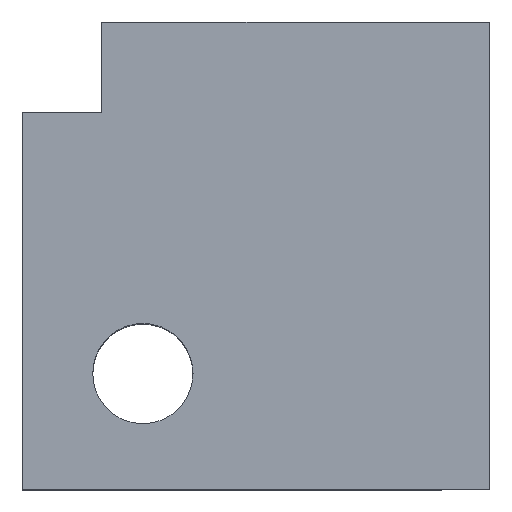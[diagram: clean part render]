
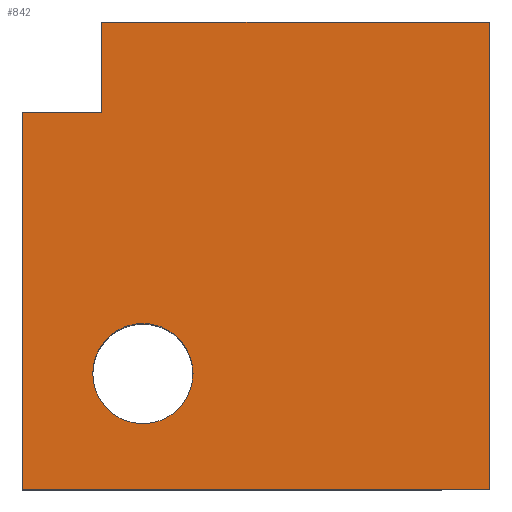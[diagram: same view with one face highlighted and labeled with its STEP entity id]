
A CAD part, top view. The second image highlights one B-rep face of the part: STEP entity #842.
In plain terms, the highlighted planar face has unit normal (0, 0, 1).
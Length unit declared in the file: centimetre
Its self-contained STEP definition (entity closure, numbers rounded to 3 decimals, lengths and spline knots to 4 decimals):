
#4 = CARTESIAN_POINT ( 'NONE',  ( 0., 0., 1000. ) ) ;
#27 = VERTEX_POINT ( 'NONE', #110 ) ;
#42 = CARTESIAN_POINT ( 'NONE',  ( 0., 1000., 1000. ) ) ;
#92 = VERTEX_POINT ( 'NONE', #1050 ) ;
#110 = CARTESIAN_POINT ( 'NONE',  ( 150.6093, 247.5254, 1000. ) ) ;
#121 = LINE ( 'NONE', #396, #467 ) ;
#130 = FACE_BOUND ( 'NONE', #1010, .T. ) ;
#142 = ORIENTED_EDGE ( 'NONE', *, *, #800, .T. ) ;
#154 = AXIS2_PLACEMENT_3D ( 'NONE', #4, #811, #1073 ) ;
#156 = VERTEX_POINT ( 'NONE', #606 ) ;
#160 = LINE ( 'NONE', #42, #350 ) ;
#194 = EDGE_CURVE ( 'NONE', #1474, #27, #435, .T. ) ;
#350 = VECTOR ( 'NONE', #736, 100. ) ;
#364 = ORIENTED_EDGE ( 'NONE', *, *, #618, .T. ) ;
#396 = CARTESIAN_POINT ( 'NONE',  ( 0., 1000., 1000. ) ) ;
#401 = VERTEX_POINT ( 'NONE', #419 ) ;
#410 = FACE_OUTER_BOUND ( 'NONE', #1393, .T. ) ;
#416 = CARTESIAN_POINT ( 'NONE',  ( 1000., 0., 1000. ) ) ;
#419 = CARTESIAN_POINT ( 'NONE',  ( 0., 807.1573, 1000. ) ) ;
#435 = CIRCLE ( 'NONE', #1406, 107.2815 ) ;
#463 = DIRECTION ( 'NONE',  ( 0., 1., 0. ) ) ;
#467 = VECTOR ( 'NONE', #1314, 100. ) ;
#519 = ORIENTED_EDGE ( 'NONE', *, *, #1450, .F. ) ;
#560 = AXIS2_PLACEMENT_3D ( 'NONE', #1491, #841, #1363 ) ;
#601 = VECTOR ( 'NONE', #1107, 100. ) ;
#606 = CARTESIAN_POINT ( 'NONE',  ( 1000., 1000., 1000. ) ) ;
#608 = CARTESIAN_POINT ( 'NONE',  ( 0., 0., 1000. ) ) ;
#618 = EDGE_CURVE ( 'NONE', #27, #1474, #1465, .T. ) ;
#645 = DIRECTION ( 'NONE',  ( 1., 0., 0. ) ) ;
#731 = VERTEX_POINT ( 'NONE', #1563 ) ;
#736 = DIRECTION ( 'NONE',  ( -1., 0., 0. ) ) ;
#757 = CARTESIAN_POINT ( 'NONE',  ( 365.1722, 247.5254, 1000. ) ) ;
#765 = CARTESIAN_POINT ( 'NONE',  ( 0., 807.1573, 1000. ) ) ;
#800 = EDGE_CURVE ( 'NONE', #401, #92, #121, .T. ) ;
#811 = DIRECTION ( 'NONE',  ( 0., 0., 1. ) ) ;
#820 = VECTOR ( 'NONE', #1642, 100. ) ;
#841 = DIRECTION ( 'NONE',  ( 0., 0., -1. ) ) ;
#842 = ADVANCED_FACE ( 'NONE', ( #410, #130 ), #1714, .T. ) ;
#843 = CARTESIAN_POINT ( 'NONE',  ( 1000., 1000., 1000. ) ) ;
#853 = CARTESIAN_POINT ( 'NONE',  ( 257.8907, 247.5254, 1000. ) ) ;
#871 = VERTEX_POINT ( 'NONE', #416 ) ;
#875 = VECTOR ( 'NONE', #463, 100. ) ;
#1010 = EDGE_LOOP ( 'NONE', ( #364, #1092 ) ) ;
#1050 = CARTESIAN_POINT ( 'NONE',  ( 0., 0., 1000. ) ) ;
#1073 = DIRECTION ( 'NONE',  ( 1., 0., 0. ) ) ;
#1088 = DIRECTION ( 'NONE',  ( -1., 0., 0. ) ) ;
#1092 = ORIENTED_EDGE ( 'NONE', *, *, #194, .T. ) ;
#1107 = DIRECTION ( 'NONE',  ( 1., 0., 0. ) ) ;
#1110 = EDGE_CURVE ( 'NONE', #1434, #731, #1634, .T. ) ;
#1127 = CARTESIAN_POINT ( 'NONE',  ( 169.6096, 807.1573, 1000. ) ) ;
#1179 = VECTOR ( 'NONE', #645, 100. ) ;
#1192 = EDGE_CURVE ( 'NONE', #92, #871, #1246, .T. ) ;
#1241 = EDGE_CURVE ( 'NONE', #871, #156, #1632, .T. ) ;
#1246 = LINE ( 'NONE', #608, #601 ) ;
#1278 = ORIENTED_EDGE ( 'NONE', *, *, #1110, .F. ) ;
#1289 = CARTESIAN_POINT ( 'NONE',  ( 169.6096, 807.1573, 1000. ) ) ;
#1298 = ORIENTED_EDGE ( 'NONE', *, *, #1192, .T. ) ;
#1300 = EDGE_CURVE ( 'NONE', #156, #731, #160, .T. ) ;
#1314 = DIRECTION ( 'NONE',  ( 0., -1., 0. ) ) ;
#1363 = DIRECTION ( 'NONE',  ( -1., 0., 0. ) ) ;
#1393 = EDGE_LOOP ( 'NONE', ( #1278, #519, #142, #1298, #1612, #1449 ) ) ;
#1406 = AXIS2_PLACEMENT_3D ( 'NONE', #853, #1508, #1088 ) ;
#1434 = VERTEX_POINT ( 'NONE', #1289 ) ;
#1449 = ORIENTED_EDGE ( 'NONE', *, *, #1300, .T. ) ;
#1450 = EDGE_CURVE ( 'NONE', #401, #1434, #1564, .T. ) ;
#1465 = CIRCLE ( 'NONE', #560, 107.2815 ) ;
#1474 = VERTEX_POINT ( 'NONE', #757 ) ;
#1491 = CARTESIAN_POINT ( 'NONE',  ( 257.8907, 247.5254, 1000. ) ) ;
#1508 = DIRECTION ( 'NONE',  ( 0., 0., -1. ) ) ;
#1563 = CARTESIAN_POINT ( 'NONE',  ( 169.6096, 1000., 1000. ) ) ;
#1564 = LINE ( 'NONE', #765, #1179 ) ;
#1612 = ORIENTED_EDGE ( 'NONE', *, *, #1241, .T. ) ;
#1632 = LINE ( 'NONE', #843, #875 ) ;
#1634 = LINE ( 'NONE', #1127, #820 ) ;
#1642 = DIRECTION ( 'NONE',  ( 0., 1., 0. ) ) ;
#1714 = PLANE ( 'NONE',  #154 ) ;
